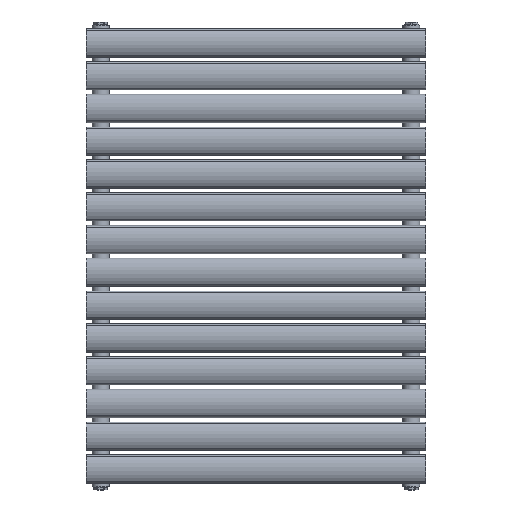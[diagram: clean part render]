
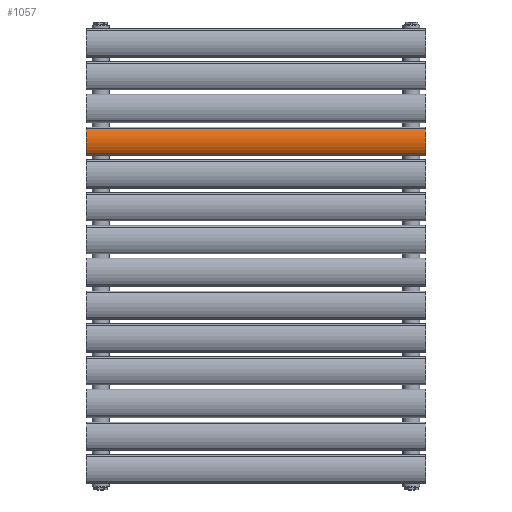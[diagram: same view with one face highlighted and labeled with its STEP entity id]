
A CAD part, top view. The second image highlights one B-rep face of the part: STEP entity #1057.
In plain terms, the highlighted cylindrical face has radius 39.5 mm (diameter 79 mm), a partial arc.
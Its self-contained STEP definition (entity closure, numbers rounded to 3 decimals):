
#163=LINE('',#2652,#195);
#164=LINE('',#2656,#196);
#195=VECTOR('',#1334,10.);
#196=VECTOR('',#1337,10.);
#386=FACE_OUTER_BOUND('',#485,.T.);
#485=EDGE_LOOP('',(#870,#871,#872,#873));
#533=CIRCLE('',#1163,39.5);
#534=CIRCLE('',#1164,39.5);
#616=VERTEX_POINT('',#2650);
#617=VERTEX_POINT('',#2651);
#618=VERTEX_POINT('',#2653);
#619=VERTEX_POINT('',#2655);
#711=EDGE_CURVE('',#616,#617,#163,.T.);
#712=EDGE_CURVE('',#618,#616,#533,.T.);
#713=EDGE_CURVE('',#619,#618,#164,.T.);
#714=EDGE_CURVE('',#617,#619,#534,.T.);
#870=ORIENTED_EDGE('',*,*,#711,.F.);
#871=ORIENTED_EDGE('',*,*,#712,.F.);
#872=ORIENTED_EDGE('',*,*,#713,.F.);
#873=ORIENTED_EDGE('',*,*,#714,.F.);
#1024=CYLINDRICAL_SURFACE('',#1162,39.5);
#1057=ADVANCED_FACE('',(#386),#1024,.T.);
#1162=AXIS2_PLACEMENT_3D('',#2649,#1332,#1333);
#1163=AXIS2_PLACEMENT_3D('',#2654,#1335,#1336);
#1164=AXIS2_PLACEMENT_3D('',#2657,#1338,#1339);
#1332=DIRECTION('center_axis',(0.,0.,1.));
#1333=DIRECTION('ref_axis',(-0.552,-0.834,0.));
#1334=DIRECTION('',(0.,0.,-1.));
#1335=DIRECTION('center_axis',(0.,0.,1.));
#1336=DIRECTION('ref_axis',(-0.552,-0.834,0.));
#1337=DIRECTION('',(0.,0.,1.));
#1338=DIRECTION('center_axis',(0.,0.,-1.));
#1339=DIRECTION('ref_axis',(-0.552,-0.834,0.));
#2649=CARTESIAN_POINT('Origin',(0.,14.5,0.));
#2650=CARTESIAN_POINT('',(21.816,-18.429,300.));
#2651=CARTESIAN_POINT('',(21.816,-18.429,-300.));
#2652=CARTESIAN_POINT('',(21.816,-18.429,0.));
#2653=CARTESIAN_POINT('',(-21.816,-18.429,300.));
#2654=CARTESIAN_POINT('Origin',(0.,14.5,300.));
#2655=CARTESIAN_POINT('',(-21.816,-18.429,-300.));
#2656=CARTESIAN_POINT('',(-21.816,-18.429,0.));
#2657=CARTESIAN_POINT('Origin',(0.,14.5,-300.));
